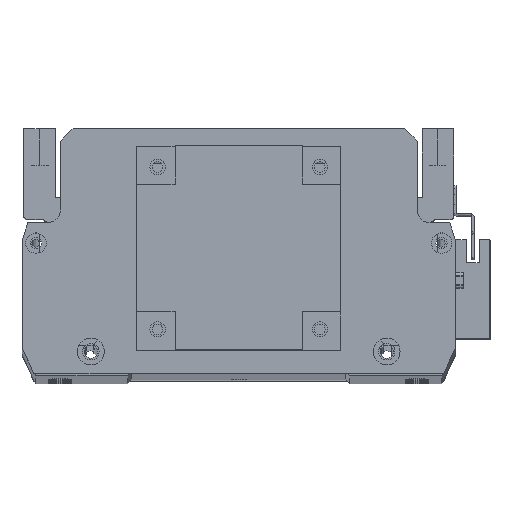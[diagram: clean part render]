
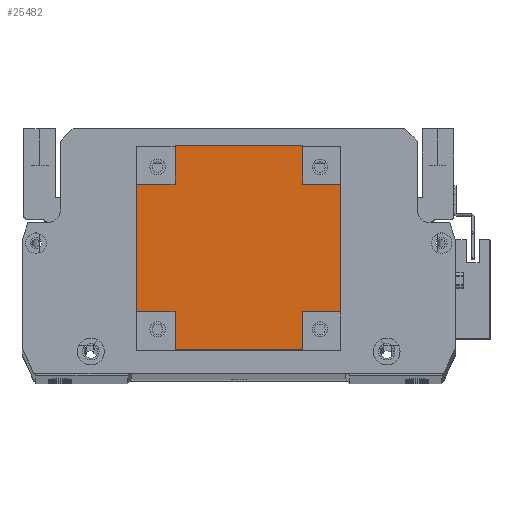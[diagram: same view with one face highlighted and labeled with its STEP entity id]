
A CAD part, top view. The second image highlights one B-rep face of the part: STEP entity #25482.
In plain terms, the highlighted planar face has unit normal (0, 0, 1).
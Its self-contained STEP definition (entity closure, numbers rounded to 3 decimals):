
#103 = VECTOR ( 'NONE', #7824, 1000. ) ;
#385 = EDGE_LOOP ( 'NONE', ( #5088, #2735, #27346, #6080, #13014, #15265, #26053, #14146, #27201, #12280, #10487, #1729 ) ) ;
#405 = VECTOR ( 'NONE', #2817, 1000. ) ;
#452 = VERTEX_POINT ( 'NONE', #6572 ) ;
#1047 = CARTESIAN_POINT ( 'NONE',  ( 80., 15., 101.5 ) ) ;
#1067 = LINE ( 'NONE', #15214, #18157 ) ;
#1662 = VECTOR ( 'NONE', #22422, 1000. ) ;
#1729 = ORIENTED_EDGE ( 'NONE', *, *, #12255, .F. ) ;
#2063 = VECTOR ( 'NONE', #17876, 1000. ) ;
#2171 = CARTESIAN_POINT ( 'NONE',  ( 80., 65., 101.5 ) ) ;
#2242 = CARTESIAN_POINT ( 'NONE',  ( 80., 15., 101.5 ) ) ;
#2464 = EDGE_CURVE ( 'NONE', #11510, #13276, #1067, .T. ) ;
#2612 = CARTESIAN_POINT ( 'NONE',  ( 0., 15., 101.5 ) ) ;
#2716 = EDGE_CURVE ( 'NONE', #23378, #19841, #19887, .T. ) ;
#2735 = ORIENTED_EDGE ( 'NONE', *, *, #8981, .F. ) ;
#2817 = DIRECTION ( 'NONE',  ( 0., 1., 0. ) ) ;
#3449 = VERTEX_POINT ( 'NONE', #14189 ) ;
#3611 = CARTESIAN_POINT ( 'NONE',  ( 0., 65., 101.5 ) ) ;
#4589 = LINE ( 'NONE', #2612, #26846 ) ;
#5088 = ORIENTED_EDGE ( 'NONE', *, *, #27841, .T. ) ;
#5316 = CARTESIAN_POINT ( 'NONE',  ( 0., 65., 101.5 ) ) ;
#5344 = EDGE_CURVE ( 'NONE', #23378, #16734, #22164, .T. ) ;
#6080 = ORIENTED_EDGE ( 'NONE', *, *, #24340, .T. ) ;
#6312 = CARTESIAN_POINT ( 'NONE',  ( 15., 0., 101.5 ) ) ;
#6572 = CARTESIAN_POINT ( 'NONE',  ( 15., 65., 101.5 ) ) ;
#7102 = EDGE_CURVE ( 'NONE', #19841, #10826, #14070, .T. ) ;
#7151 = DIRECTION ( 'NONE',  ( 0., -1., 0. ) ) ;
#7411 = DIRECTION ( 'NONE',  ( 0., 0., -1. ) ) ;
#7714 = LINE ( 'NONE', #24211, #12958 ) ;
#7824 = DIRECTION ( 'NONE',  ( 1., 0., 0. ) ) ;
#7887 = CARTESIAN_POINT ( 'NONE',  ( 65., 80., 101.5 ) ) ;
#8981 = EDGE_CURVE ( 'NONE', #452, #3449, #24109, .T. ) ;
#10487 = ORIENTED_EDGE ( 'NONE', *, *, #14504, .F. ) ;
#10826 = VERTEX_POINT ( 'NONE', #15133 ) ;
#10973 = VECTOR ( 'NONE', #17959, 1000. ) ;
#11292 = CARTESIAN_POINT ( 'NONE',  ( 0., 0., 101.5 ) ) ;
#11510 = VERTEX_POINT ( 'NONE', #6312 ) ;
#11810 = PLANE ( 'NONE',  #26574 ) ;
#11870 = DIRECTION ( 'NONE',  ( 0., -1., 0. ) ) ;
#12255 = EDGE_CURVE ( 'NONE', #18769, #24083, #25582, .T. ) ;
#12280 = ORIENTED_EDGE ( 'NONE', *, *, #5344, .T. ) ;
#12391 = VECTOR ( 'NONE', #19264, 1000. ) ;
#12958 = VECTOR ( 'NONE', #28533, 1000. ) ;
#13014 = ORIENTED_EDGE ( 'NONE', *, *, #28623, .F. ) ;
#13098 = EDGE_CURVE ( 'NONE', #26081, #452, #14483, .T. ) ;
#13276 = VERTEX_POINT ( 'NONE', #17577 ) ;
#13505 = LINE ( 'NONE', #11292, #1662 ) ;
#13691 = EDGE_CURVE ( 'NONE', #11510, #10826, #16894, .T. ) ;
#13786 = DIRECTION ( 'NONE',  ( 0., 1., 0. ) ) ;
#13934 = CARTESIAN_POINT ( 'NONE',  ( 15., 80., 101.5 ) ) ;
#14055 = CARTESIAN_POINT ( 'NONE',  ( 0., 0., 101.5 ) ) ;
#14070 = LINE ( 'NONE', #20562, #21437 ) ;
#14146 = ORIENTED_EDGE ( 'NONE', *, *, #7102, .F. ) ;
#14189 = CARTESIAN_POINT ( 'NONE',  ( 15., 80., 101.5 ) ) ;
#14483 = LINE ( 'NONE', #3611, #12391 ) ;
#14504 = EDGE_CURVE ( 'NONE', #24083, #16734, #23857, .T. ) ;
#15016 = DIRECTION ( 'NONE',  ( 0., 1., 0. ) ) ;
#15133 = CARTESIAN_POINT ( 'NONE',  ( 65., 0., 101.5 ) ) ;
#15214 = CARTESIAN_POINT ( 'NONE',  ( 15., 0., 101.5 ) ) ;
#15265 = ORIENTED_EDGE ( 'NONE', *, *, #2464, .F. ) ;
#16236 = VERTEX_POINT ( 'NONE', #16310 ) ;
#16310 = CARTESIAN_POINT ( 'NONE',  ( 0., 15., 101.5 ) ) ;
#16334 = CARTESIAN_POINT ( 'NONE',  ( 65., 80., 101.5 ) ) ;
#16734 = VERTEX_POINT ( 'NONE', #2171 ) ;
#16894 = LINE ( 'NONE', #26696, #10973 ) ;
#17577 = CARTESIAN_POINT ( 'NONE',  ( 15., 15., 101.5 ) ) ;
#17876 = DIRECTION ( 'NONE',  ( -1., 0., 0. ) ) ;
#17959 = DIRECTION ( 'NONE',  ( 1., 0., 0. ) ) ;
#18157 = VECTOR ( 'NONE', #15016, 1000. ) ;
#18769 = VERTEX_POINT ( 'NONE', #7887 ) ;
#19005 = CARTESIAN_POINT ( 'NONE',  ( 65., 65., 101.5 ) ) ;
#19264 = DIRECTION ( 'NONE',  ( 1., 0., 0. ) ) ;
#19428 = CARTESIAN_POINT ( 'NONE',  ( 65., 65., 101.5 ) ) ;
#19738 = VECTOR ( 'NONE', #11870, 1000. ) ;
#19841 = VERTEX_POINT ( 'NONE', #22814 ) ;
#19887 = LINE ( 'NONE', #2242, #2063 ) ;
#20562 = CARTESIAN_POINT ( 'NONE',  ( 65., 0., 101.5 ) ) ;
#21437 = VECTOR ( 'NONE', #7151, 1000. ) ;
#21478 = VECTOR ( 'NONE', #13786, 1000. ) ;
#22164 = LINE ( 'NONE', #27053, #21478 ) ;
#22422 = DIRECTION ( 'NONE',  ( 0., -1., 0. ) ) ;
#22728 = DIRECTION ( 'NONE',  ( -1., 0., 0. ) ) ;
#22814 = CARTESIAN_POINT ( 'NONE',  ( 65., 15., 101.5 ) ) ;
#23051 = DIRECTION ( 'NONE',  ( -1., 0., 0. ) ) ;
#23378 = VERTEX_POINT ( 'NONE', #1047 ) ;
#23857 = LINE ( 'NONE', #19005, #103 ) ;
#24083 = VERTEX_POINT ( 'NONE', #19428 ) ;
#24109 = LINE ( 'NONE', #13934, #405 ) ;
#24211 = CARTESIAN_POINT ( 'NONE',  ( 0., 80., 101.5 ) ) ;
#24273 = FACE_OUTER_BOUND ( 'NONE', #385, .T. ) ;
#24340 = EDGE_CURVE ( 'NONE', #26081, #16236, #13505, .T. ) ;
#25482 = ADVANCED_FACE ( 'NONE', ( #24273 ), #11810, .F. ) ;
#25582 = LINE ( 'NONE', #16334, #19738 ) ;
#26053 = ORIENTED_EDGE ( 'NONE', *, *, #13691, .T. ) ;
#26081 = VERTEX_POINT ( 'NONE', #5316 ) ;
#26574 = AXIS2_PLACEMENT_3D ( 'NONE', #14055, #7411, #23051 ) ;
#26696 = CARTESIAN_POINT ( 'NONE',  ( 0., 0., 101.5 ) ) ;
#26846 = VECTOR ( 'NONE', #22728, 1000. ) ;
#27053 = CARTESIAN_POINT ( 'NONE',  ( 80., 0., 101.5 ) ) ;
#27201 = ORIENTED_EDGE ( 'NONE', *, *, #2716, .F. ) ;
#27346 = ORIENTED_EDGE ( 'NONE', *, *, #13098, .F. ) ;
#27841 = EDGE_CURVE ( 'NONE', #18769, #3449, #7714, .T. ) ;
#28533 = DIRECTION ( 'NONE',  ( -1., 0., 0. ) ) ;
#28623 = EDGE_CURVE ( 'NONE', #13276, #16236, #4589, .T. ) ;
